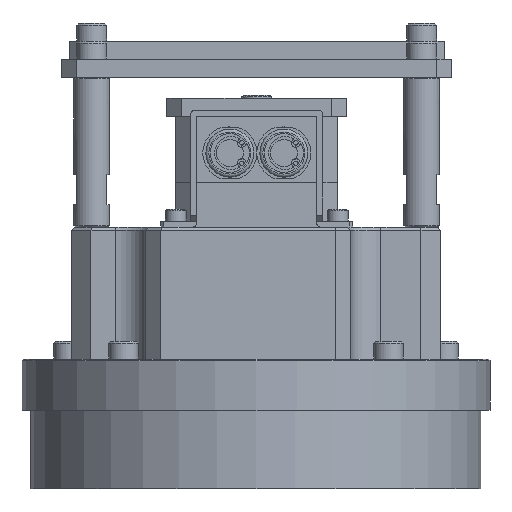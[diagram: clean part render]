
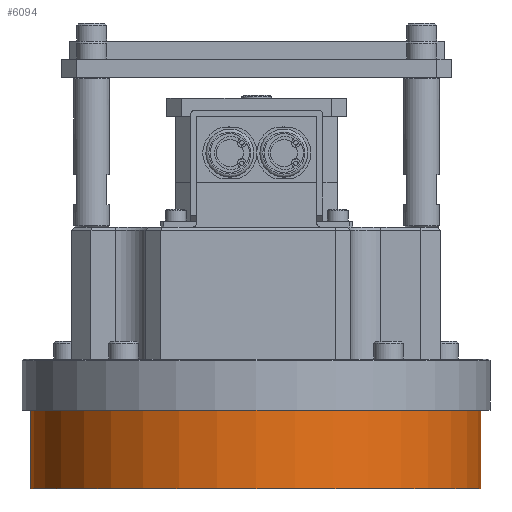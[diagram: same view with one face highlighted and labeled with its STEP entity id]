
A CAD part, left-side view. The second image highlights one B-rep face of the part: STEP entity #6094.
In plain terms, the highlighted cylindrical face has radius 75 mm (diameter 150 mm), a partial arc.
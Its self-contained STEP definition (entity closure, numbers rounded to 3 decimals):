
#6094=ADVANCED_FACE('',(#12078),#12079,.T.);
#12078=FACE_OUTER_BOUND('',#18329,.T.);
#12079=CYLINDRICAL_SURFACE('',#18330,75.0);
#18329=EDGE_LOOP('',(#29956,#29957,#29958,#29959));
#18330=AXIS2_PLACEMENT_3D('',#29960,#29961,#29962);
#29956=ORIENTED_EDGE('',*,*,#36565,.F.);
#29957=ORIENTED_EDGE('',*,*,#36552,.F.);
#29958=ORIENTED_EDGE('',*,*,#36571,.T.);
#29959=ORIENTED_EDGE('',*,*,#36560,.T.);
#29960=CARTESIAN_POINT('',(-100.0,0.0,3.2));
#29961=DIRECTION('',(0.0,0.0,-1.0));
#29962=DIRECTION('',(-1.0,0.0,0.0));
#36552=EDGE_CURVE('',#42914,#42909,#42916,.T.);
#36560=EDGE_CURVE('',#42930,#42928,#42931,.T.);
#36565=EDGE_CURVE('',#42909,#42928,#42937,.T.);
#36571=EDGE_CURVE('',#42914,#42930,#42945,.T.);
#42909=VERTEX_POINT('',#51824);
#42914=VERTEX_POINT('',#51831);
#42916=LINE('',#51834,#51835);
#42928=VERTEX_POINT('',#51851);
#42930=VERTEX_POINT('',#51854);
#42931=LINE('',#51855,#51856);
#42937=CIRCLE('',#51864,75.0);
#42945=CIRCLE('',#51873,75.0);
#51824=CARTESIAN_POINT('',(-100.0,75.0,3.2));
#51831=CARTESIAN_POINT('',(-100.0,75.0,-29.8));
#51834=CARTESIAN_POINT('',(-100.0,75.0,-29.8));
#51835=VECTOR('',#57903,1.0);
#51851=CARTESIAN_POINT('',(-100.0,-75.0,3.2));
#51854=CARTESIAN_POINT('',(-100.0,-75.0,-29.8));
#51855=CARTESIAN_POINT('',(-100.0,-75.0,-29.8));
#51856=VECTOR('',#57909,1.0);
#51864=AXIS2_PLACEMENT_3D('',#57915,#57916,#57917);
#51873=AXIS2_PLACEMENT_3D('',#57928,#57929,#57930);
#57903=DIRECTION('',(0.0,0.0,1.0));
#57909=DIRECTION('',(0.0,0.0,1.0));
#57915=CARTESIAN_POINT('',(-100.0,0.0,3.2));
#57916=DIRECTION('',(0.0,0.0,1.0));
#57917=DIRECTION('',(1.0,0.0,0.0));
#57928=CARTESIAN_POINT('',(-100.0,0.0,-29.8));
#57929=DIRECTION('',(0.0,0.0,1.0));
#57930=DIRECTION('',(1.0,0.0,0.0));
